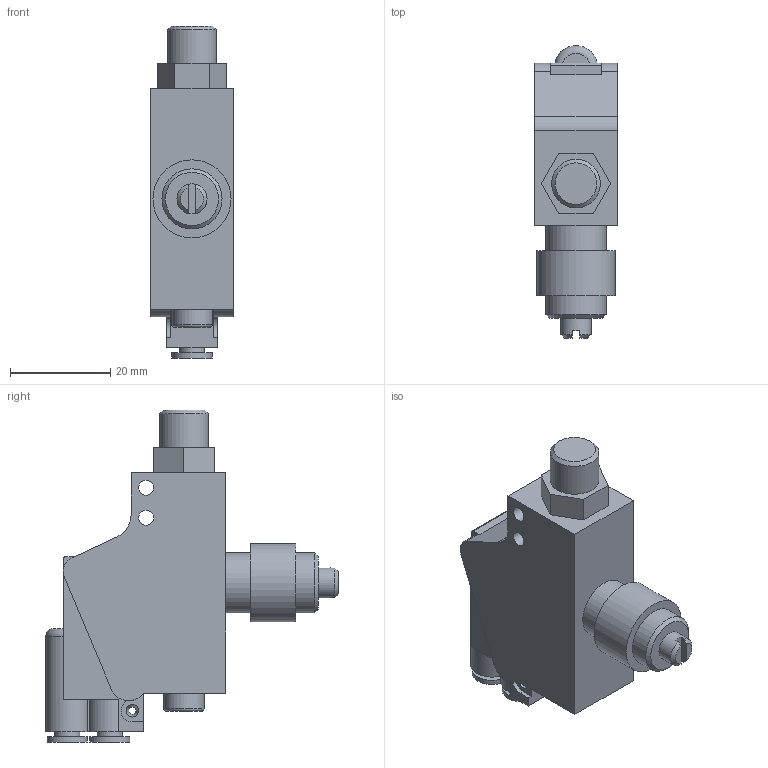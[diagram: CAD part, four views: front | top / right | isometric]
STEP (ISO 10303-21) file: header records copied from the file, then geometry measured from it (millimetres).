
FILE_DESCRIPTION(/* description */ ('VACUOSTATO PNEUMATICO N.#.'),/* implementation_level */ '2;1');
FILE_NAME(/* name */ 'C:\PNX_VAULTFOLDER\Area Tecnica\Disegni\VARIE-3D\Componenti\1900 (vuoto)\19TR4_#.stp',/* time_stamp */ '2019-09-13T14:39:03+02:00',/* author */ ('maniean1'),/* organization */ ('Pneumax S.p.A.'),/* preprocessor_version */ 'ST-DEVELOPER v17',/* originating_system */ 'Autodesk Inventor 2019',/* authorisation */ '');
FILE_SCHEMA (('AUTOMOTIVE_DESIGN { 1 0 10303 214 3 1 1 }'));
Length unit declared in the file: millimetre
Products named in the file (1): 19TR4.#
Bounding box: 16.5 x 58.4 x 66.25 mm (x, y, z)
Volume: 24943.5 mm3; surface area: 7659.9 mm2
Topology: 1 solids, 1 shells, 92 faces, 244 edges, 168 vertices
Faces by surface type: plane 58, cylinder 26, cone 6, torus 2
Full cylindrical faces by diameter (mm): 1.5 x1, 3 x2, 4 x2, 5 x2, 6 x1, 8 x3, 9.7 x1, 12 x2, 15.6 x1
Entity records: 2967 total; most frequent: CARTESIAN_POINT 531, DIRECTION 514, ORIENTED_EDGE 488, EDGE_CURVE 244, AXIS2_PLACEMENT_3D 183, VERTEX_POINT 168, LINE 148, VECTOR 148
